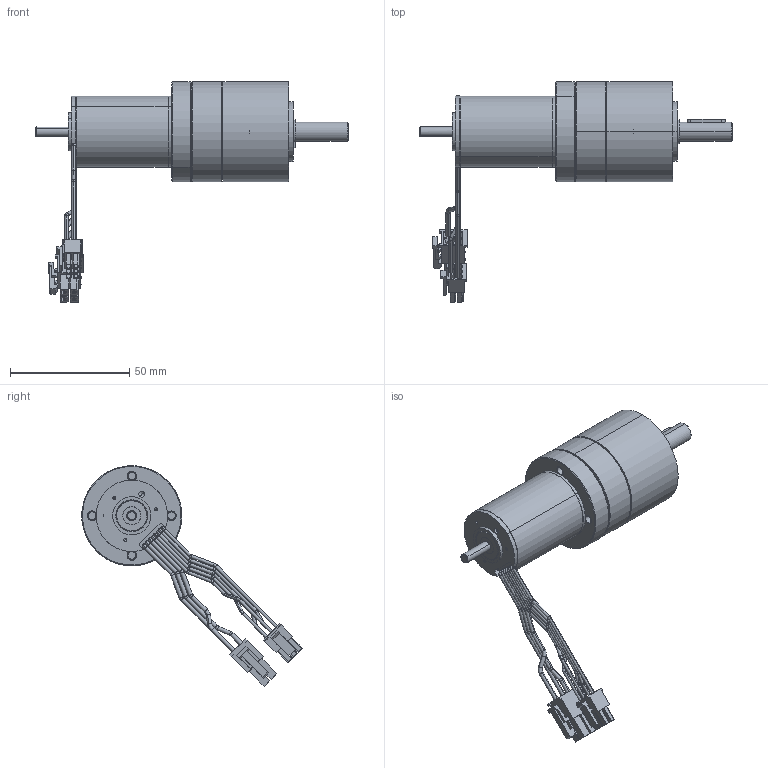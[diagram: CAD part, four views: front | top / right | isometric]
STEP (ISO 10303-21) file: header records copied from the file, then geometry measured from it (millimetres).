
FILE_DESCRIPTION (( 'STEP AP214' ), '1' );
FILE_NAME ('ECi30_PM42 -1etage.STEP', '2019-11-08T13:47:48', ( '' ), ( '' ), 'SwSTEP 2.0', 'SolidWorks 2018', '' );
FILE_SCHEMA (( 'AUTOMOTIVE_DESIGN' ));
Length unit declared in the file: millimetre
Products named in the file (17): SCHRAUBE_1241978_23; 8001316_ABTRIEB_LK4_KPL_13; 8001305_LAGERBOLZEN_14; VBZ_K7841_ABTRIEB_AF0_14; DIN998_PS_8X14X1_14; D912_M3X8_9; 3X3X16_D6885A_14; 8001288_ANLAUFSCHEIBE_1ST_12; MOTORRITZEL_Z17_1239849_1; D471_8X0_8_14; 539481_EC-i30_45W_HighTorque; MOTORFLANSCH_1241491_1; 8007595_LAGERFLANSCH_13; ECi30_PM42 -1etage; P8209_8007589_ZAHNKRANZ_Z46_13; 8007606_DICHTRING_13; D625-608-2RS_13
Assembly tree (27 placements, depth 3):
  ECi30_PM42 -1etage
    8007595_LAGERFLANSCH_13
    D625-608-2RS_13  x2
    DIN998_PS_8X14X1_14  x2
    8001316_ABTRIEB_LK4_KPL_13
      VBZ_K7841_ABTRIEB_AF0_14
      8001305_LAGERBOLZEN_14  x3
    D471_8X0_8_14
    3X3X16_D6885A_14
    8007606_DICHTRING_13  x2
    P8209_8007589_ZAHNKRANZ_Z46_13
    MOTORFLANSCH_1241491_1
    8001288_ANLAUFSCHEIBE_1ST_12
    MOTORRITZEL_Z17_1239849_1
    SCHRAUBE_1241978_23  x4
    D912_M3X8_9  x4
    539481_EC-i30_45W_HighTorque
Bounding box: 131.2 x 92.52 x 92.56 mm (x, y, z)
Volume: 14438.1 mm3; surface area: 54665.6 mm2
Topology: 18 solids, 53 shells, 1484 faces, 3892 edges, 2494 vertices
Faces by surface type: plane 652, cylinder 553, cone 137, bspline 82, torus 60
Entity records: 55770 total; most frequent: CARTESIAN_POINT 10250, DIRECTION 7012, ORIENTED_EDGE 6720, EDGE_CURVE 3423, AXIS2_PLACEMENT_3D 2478, VERTEX_POINT 2219, LINE 2056, VECTOR 2056
